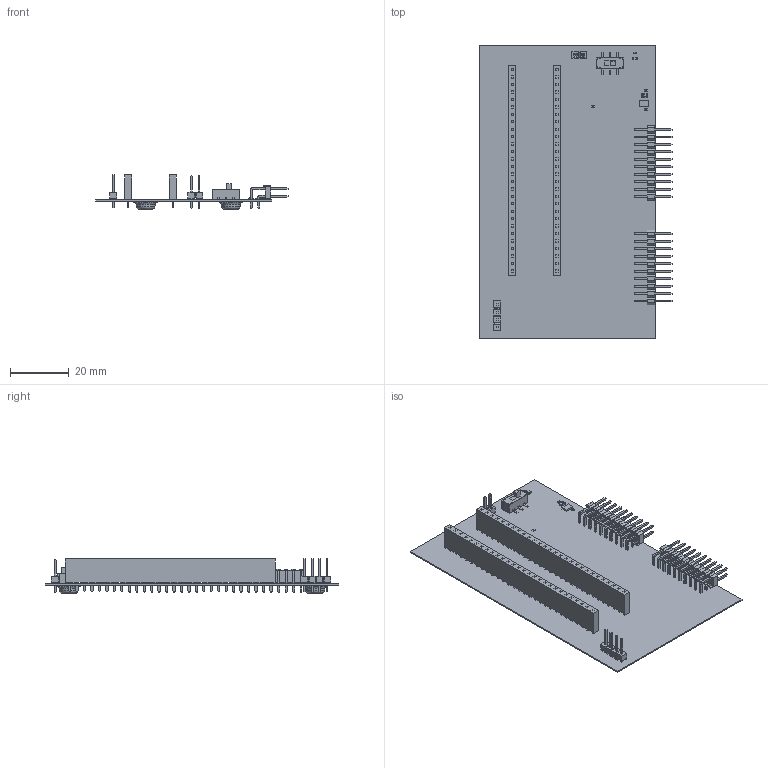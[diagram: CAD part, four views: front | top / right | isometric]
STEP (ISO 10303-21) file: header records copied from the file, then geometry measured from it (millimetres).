
FILE_DESCRIPTION(('Open CASCADE Model'),'2;1');
FILE_NAME('Open CASCADE Shape Model','2019-11-25T14:54:39',('Author'),( 'Open CASCADE'),'Open CASCADE STEP processor 6.8','Open CASCADE 6.8' ,'Unknown');
FILE_SCHEMA(('AUTOMOTIVE_DESIGN { 1 0 10303 214 1 1 1 1 }'));
Length unit declared in the file: millimetre
Products named in the file (46): PCB; Board; Open CASCADE STEP translator 6.8 1.1.1; J6; SSW-128-01-G-S; _T1SSW-128-01-G-S; _P2SSW-128-01-G-S; J5; J4; HMTSW-104-23-F-S-237; _HMTSW-104-23-F-S-237_body; _HMTSW-104-23-S-237; SW1; Metal; Extruded; 5983905216; 5983903696; 5983903376; 5983902976; J2; pin_header_awl254-da-g20d; J1; C4; smd_0805; D2; SW3dPS-LED_SMD0603; E1; SJxx76; E2; E3; E4; R1; 0402_SMD_Resistor; R8; R9; R10; R12; R14; U2; 5983906416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
Assembly tree (61 placements, depth 4):
  PCB
    Board
      Open CASCADE STEP translator 6.8 1.1.1
    J6
      SSW-128-01-G-S
        _T1SSW-128-01-G-S
        _P2SSW-128-01-G-S
    J5
      SSW-128-01-G-S
        _T1SSW-128-01-G-S
        _P2SSW-128-01-G-S
    J4
      HMTSW-104-23-F-S-237
        _HMTSW-104-23-F-S-237_body
        _HMTSW-104-23-S-237
    SW1
      Metal  x6
        Extruded
      5983905216  x2
        Extruded
      5983903696
      5983903376
        Extruded
      5983902976
        Extruded
    J2
      pin_header_awl254-da-g20d
    J1
      pin_header_awl254-da-g20d
    C4
      smd_0805
    D2
      SW3dPS-LED_SMD0603
    E1
      SJxx76
    E2
      SJxx76
    E3
      SJxx76
    E4
      SJxx76
    R1
      0402_SMD_Resistor
    R8
      0402_SMD_Resistor
    R9
      0402_SMD_Resistor
    R10
      0402_SMD_Resistor
    R12
      0402_SMD_Resistor
    R14
      0402_SMD_Resistor
    U2
      5983906416
        Extruded
    J3
      Samtec-TSW-102-23-F-S
Bounding box: 65.59 x 100 x 11.77 mm (x, y, z)
Volume: 6385.5 mm3; surface area: 21169.1 mm2
Topology: 38 solids, 38 shells, 3002 faces, 7590 edges, 4792 vertices
Faces by surface type: plane 2555, cylinder 230, bspline 149, sphere 56, torus 8, cone 4
Full cylindrical faces by diameter (mm): 8.001 x4
Entity records: 64229 total; most frequent: CARTESIAN_POINT 11389, ORIENTED_EDGE 7766, DIRECTION 7018, EDGE_CURVE 3883, LINE 3610, VECTOR 3610, PRESENTATION_STYLE_ASSIGNMENT 2732, VERTEX_POINT 2481
